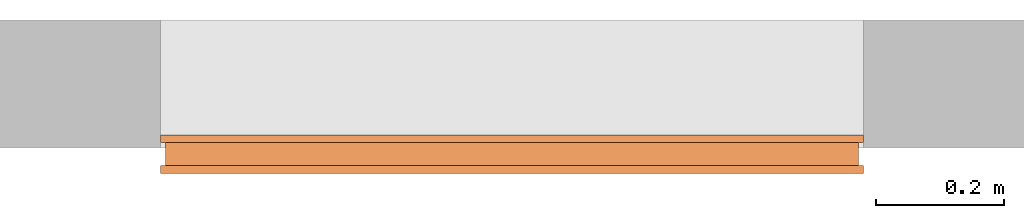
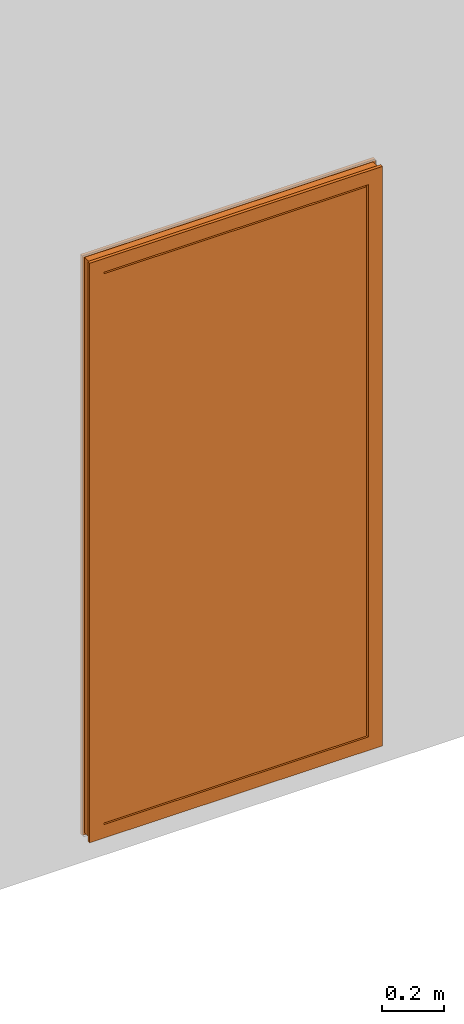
# One storey, part 2 of 2: 1 proxy.
"""IFC2X3 building model written with IfcOpenShell, lengths in millimetres."""

from ifc_helpers import new_model, entity, si_unit, converted_unit, derived_unit, direction, frame, origin, place, context, subcontext, project, spatial, faceted_brep, source, transform, mapped, material, material_list, type_object, type_shapes, element, save


model = new_model("IFC2X3")

# Units and contexts
model_context = context("Model", 3, precision=0.01, world=origin(), true_north=direction((6.12303176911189e-17, 1.0)))
body_context = subcontext(model_context, "Body", "Model", "MODEL_VIEW")
ifc_project = project(units=[si_unit("LENGTHUNIT", "METRE", prefix="MILLI"), si_unit("AREAUNIT", "SQUARE_METRE"), si_unit("VOLUMEUNIT", "CUBIC_METRE"), converted_unit("PLANEANGLEUNIT", "DEGREE", entity("IfcRatioMeasure", 0.0174532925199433), si_unit("PLANEANGLEUNIT", "RADIAN"), dimensions=[0, 0, 0, 0, 0, 0, 0]), si_unit("MASSUNIT", "GRAM", prefix="KILO"), derived_unit("MASSDENSITYUNIT", [(si_unit("MASSUNIT", "GRAM", prefix="KILO"), 1), (si_unit("LENGTHUNIT", "METRE"), -3)]), si_unit("TIMEUNIT", "SECOND"), si_unit("FREQUENCYUNIT", "HERTZ"), si_unit("THERMODYNAMICTEMPERATUREUNIT", "DEGREE_CELSIUS"), derived_unit("THERMALTRANSMITTANCEUNIT", [(si_unit("MASSUNIT", "GRAM", prefix="KILO"), 1), (si_unit("THERMODYNAMICTEMPERATUREUNIT", "KELVIN"), -1), (si_unit("TIMEUNIT", "SECOND"), -3)]), derived_unit("VOLUMETRICFLOWRATEUNIT", [(si_unit("LENGTHUNIT", "METRE"), 3), (si_unit("TIMEUNIT", "SECOND"), -1)]), si_unit("ELECTRICCURRENTUNIT", "AMPERE"), si_unit("ELECTRICVOLTAGEUNIT", "VOLT"), si_unit("POWERUNIT", "WATT"), si_unit("FORCEUNIT", "NEWTON", prefix="KILO"), si_unit("ILLUMINANCEUNIT", "LUX"), si_unit("LUMINOUSFLUXUNIT", "LUMEN"), si_unit("LUMINOUSINTENSITYUNIT", "CANDELA"), derived_unit("USERDEFINED", [(si_unit("MASSUNIT", "GRAM", prefix="KILO"), -1), (si_unit("LENGTHUNIT", "METRE"), -2), (si_unit("TIMEUNIT", "SECOND"), 3), (si_unit("LUMINOUSFLUXUNIT", "LUMEN"), 1)]), derived_unit("LINEARVELOCITYUNIT", [(si_unit("LENGTHUNIT", "METRE"), 1), (si_unit("TIMEUNIT", "SECOND"), -1)]), si_unit("PRESSUREUNIT", "PASCAL"), derived_unit("USERDEFINED", [(si_unit("LENGTHUNIT", "METRE"), -2), (si_unit("MASSUNIT", "GRAM", prefix="KILO"), 1), (si_unit("TIMEUNIT", "SECOND"), -2)])], contexts=[model_context])

# Site, building, storey
site_placement = place(None, origin())
site = spatial("IfcSite", under=ifc_project, at=site_placement, Name="Default", CompositionType="ELEMENT")
building_placement = place(site_placement, origin())
building = spatial("IfcBuilding", under=site, at=building_placement, CompositionType="ELEMENT")
storey_placement = place(building_placement, origin())
storey = spatial("IfcBuildingStorey", under=building, at=storey_placement, Name="Nivel 1", CompositionType="ELEMENT", Elevation=0.0)

# Proxy
ifc_material_1 = material(Name="Glass")
ifc_material_2 = material(Name="RAU-PVC")
ifc_material_list_1 = material_list([ifc_material_1, ifc_material_2])
ifc_material_list_2 = material_list([ifc_material_1, ifc_material_2])
building_element_proxy_type = type_object("IfcBuildingElementProxyType", Name="1.1 REH_ED-60", material=ifc_material_list_2)
shared_shape = source(origin(), body_context, "Body", "Brep", [
    faceted_brep([(54.0, 15.0, 2240.0), (1040.0, 15.0, 2240.0), (1040.0, 15.0, 60.0), (54.0, 15.0, 60.0), (54.0, 0.0, 2240.0), (54.0, 0.0, 60.0), (1040.0, 0.0, 60.0), (1040.0, 0.0, 2240.0)], [[[0, 1, 2, 3]], [[4, 5, 6, 7]], [[4, 7, 1, 0]], [[7, 6, 2, 1]], [[6, 5, 3, 2]], [[5, 4, 0, 3]]]),
    faceted_brep([(1046.0, 12.0, 54.0), (1046.0, 0.0, 54.0), (1046.0, 0.0, 2246.0), (1046.0, 12.0, 2246.0), (1072.20185432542, 48.0, 27.7981456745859), (1070.0, 12.0, 30.0), (1070.0, 12.0, 2270.0), (1072.20185432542, 48.0, 2272.20185432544), (1046.0, 60.0, 54.0), (1046.0, 48.0, 54.0), (1046.0, 48.0, 2246.0), (1046.0, 60.0, 2246.0), (1100.0, 48.0, 0.0), (1100.0, 60.0, 0.0), (1100.0, 60.0, 2300.0), (1100.0, 48.0, 2300.0), (1092.0, 12.0, 8.0), (1092.0, 48.0, 8.0), (1092.0, 48.0, 2292.0), (1092.0, 12.0, 2292.0), (1100.0, 0.0, 0.0), (1100.0, 12.0, 0.0), (1100.0, 12.0, 2300.0), (1100.0, 0.0, 2300.0), (54.0, 0.0, 2246.0), (54.0, 12.0, 2246.0), (30.0, 12.0, 2270.0), (27.798145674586, 48.0, 2272.20185432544), (54.0, 48.0, 2246.0), (54.0, 60.0, 2246.0), (0.0, 60.0, 2300.0), (0.0, 48.0, 2300.0), (8.0, 48.0, 2292.0), (8.0, 12.0, 2292.0), (0.0, 12.0, 2300.0), (0.0, 0.0, 2300.0), (54.0, 0.0, 54.0), (54.0, 12.0, 54.0), (30.0, 12.0, 30.0), (27.7981456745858, 48.0, 27.7981456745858), (54.0, 48.0, 54.0), (54.0, 60.0, 54.0), (0.0, 60.0, 0.0), (0.0, 48.0, 0.0), (8.0, 48.0, 8.0), (8.0, 12.0, 8.0), (0.0, 12.0, 0.0), (0.0, 0.0, 0.0)], [[[0, 1, 2, 3]], [[4, 5, 6, 7]], [[8, 9, 10, 11]], [[12, 13, 14, 15]], [[16, 17, 18, 19]], [[20, 21, 22, 23]], [[3, 2, 24, 25]], [[7, 6, 26, 27]], [[11, 10, 28, 29]], [[15, 14, 30, 31]], [[19, 18, 32, 33]], [[23, 22, 34, 35]], [[25, 24, 36, 37]], [[27, 26, 38, 39]], [[29, 28, 40, 41]], [[31, 30, 42, 43]], [[33, 32, 44, 45]], [[35, 34, 46, 47]], [[37, 36, 1, 0]], [[3, 25, 37, 0], [5, 38, 26, 6]], [[39, 38, 5, 4]], [[7, 27, 39, 4], [9, 40, 28, 10]], [[41, 40, 9, 8]], [[11, 29, 41, 8], [13, 42, 30, 14]], [[43, 42, 13, 12]], [[15, 31, 43, 12], [17, 44, 32, 18]], [[45, 44, 17, 16]], [[19, 33, 45, 16], [21, 46, 34, 22]], [[47, 46, 21, 20]], [[23, 35, 47, 20], [1, 36, 24, 2]]], outer=[[True], [True], [True], [True], [True], [True], [True], [True], [True], [True], [True], [True], [True], [True], [True], [True], [True], [True], [True], [False, True], [True], [True, False], [True], [False, True], [True], [True, False], [True], [False, True], [True], [True, False]]),
])
type_shapes(building_element_proxy_type, [shared_shape])
proxy_placement = place(storey_placement, frame((433.414886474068, -104.424404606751, 100.0)))
element("IfcBuildingElementProxy", 1, at=proxy_placement, inside=storey, type_object=building_element_proxy_type, material=ifc_material_list_1, Name="1.1 REH_ED-60 :1.1 REH_ED-60", ObjectType="1.1 REH_ED-60", context=body_context, shape_type="MappedRepresentation", body=[
    mapped(shared_shape, transform((0.0, 0.0, 0.0), scale=1.0)),
])

save(model, "model.ifc")
